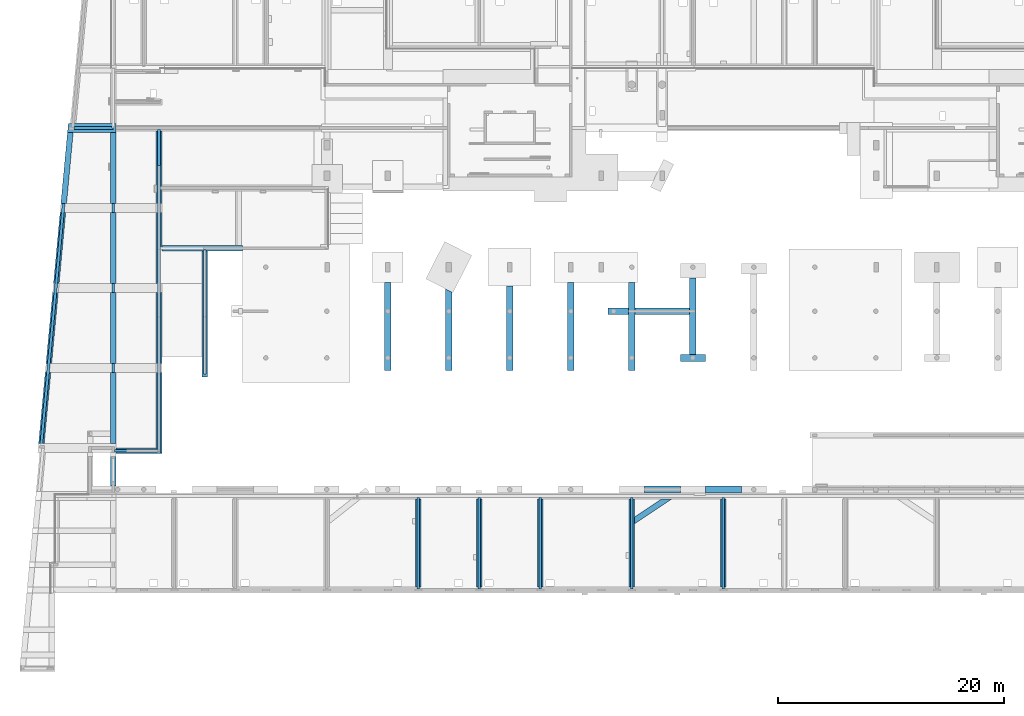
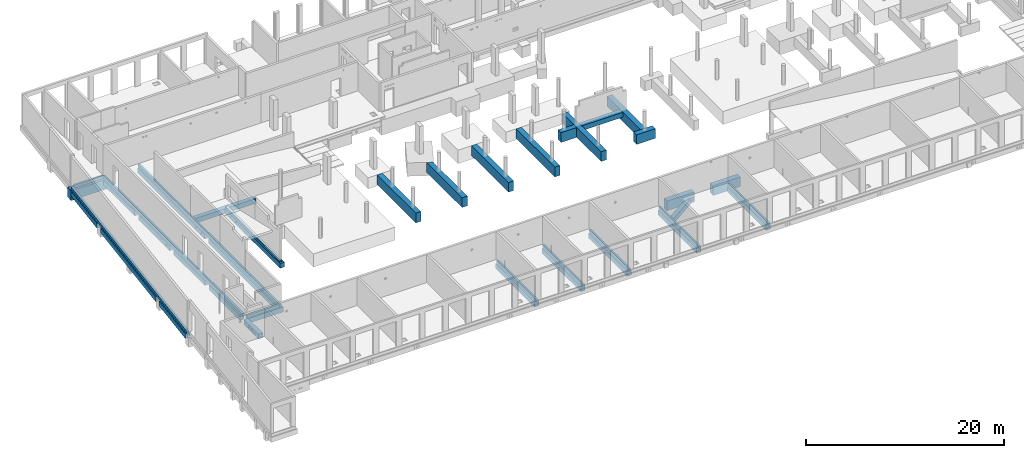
# One storey, part 2 of 60: 41 footings.
"""IFC2X3 building model written with IfcOpenShell, lengths in millimetres."""

from ifc_helpers import new_model, entity, si_unit, converted_unit, derived_unit, direction, frame, frame_2d, origin, origin_2d_with_axis, place, context, subcontext, project, spatial, polyline, circle_curve, parameter, trimmed, segment, composite_curve, rectangle, outline, extrude, material, element, save


model = new_model("IFC2X3")

# Units and contexts
model_context = context("Model", 3, precision=0.01, world=origin(), true_north=direction((6.12303176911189e-17, 1.0)))
body_context = subcontext(model_context, "Body", "Model", "MODEL_VIEW")
ifc_project = project(units=[si_unit("LENGTHUNIT", "METRE", prefix="MILLI"), si_unit("AREAUNIT", "SQUARE_METRE"), si_unit("VOLUMEUNIT", "CUBIC_METRE"), converted_unit("PLANEANGLEUNIT", "DEGREE", entity("IfcRatioMeasure", 0.0174532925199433), si_unit("PLANEANGLEUNIT", "RADIAN"), dimensions=[0, 0, 0, 0, 0, 0, 0]), si_unit("MASSUNIT", "GRAM", prefix="KILO"), derived_unit("MASSDENSITYUNIT", [(si_unit("MASSUNIT", "GRAM", prefix="KILO"), 1), (si_unit("LENGTHUNIT", "METRE"), -3)]), si_unit("TIMEUNIT", "SECOND"), si_unit("FREQUENCYUNIT", "HERTZ"), si_unit("THERMODYNAMICTEMPERATUREUNIT", "DEGREE_CELSIUS"), derived_unit("THERMALTRANSMITTANCEUNIT", [(si_unit("MASSUNIT", "GRAM", prefix="KILO"), 1), (si_unit("THERMODYNAMICTEMPERATUREUNIT", "KELVIN"), -1), (si_unit("TIMEUNIT", "SECOND"), -3)]), derived_unit("VOLUMETRICFLOWRATEUNIT", [(si_unit("LENGTHUNIT", "METRE"), 3), (si_unit("TIMEUNIT", "SECOND"), -1)]), si_unit("ELECTRICCURRENTUNIT", "AMPERE"), si_unit("ELECTRICVOLTAGEUNIT", "VOLT"), si_unit("POWERUNIT", "WATT"), si_unit("FORCEUNIT", "NEWTON", prefix="KILO"), si_unit("ILLUMINANCEUNIT", "LUX"), si_unit("LUMINOUSFLUXUNIT", "LUMEN"), si_unit("LUMINOUSINTENSITYUNIT", "CANDELA"), derived_unit("USERDEFINED", [(si_unit("MASSUNIT", "GRAM", prefix="KILO"), -1), (si_unit("LENGTHUNIT", "METRE"), -2), (si_unit("TIMEUNIT", "SECOND"), 3), (si_unit("LUMINOUSFLUXUNIT", "LUMEN"), 1)]), derived_unit("LINEARVELOCITYUNIT", [(si_unit("LENGTHUNIT", "METRE"), 1), (si_unit("TIMEUNIT", "SECOND"), -1)]), si_unit("PRESSUREUNIT", "PASCAL"), derived_unit("USERDEFINED", [(si_unit("LENGTHUNIT", "METRE"), -2), (si_unit("MASSUNIT", "GRAM", prefix="KILO"), 1), (si_unit("TIMEUNIT", "SECOND"), -2)])], contexts=[model_context])

# Site, building, storey
site_placement = place(None, origin())
site = spatial("IfcSite", under=ifc_project, at=site_placement, Name="Default", CompositionType="ELEMENT")
building_placement = place(site_placement, origin())
building = spatial("IfcBuilding", under=site, at=building_placement, Name="niet gebruiken", CompositionType="ELEMENT")
storey_placement = place(building_placement, origin())
storey = spatial("IfcBuildingStorey", under=building, at=storey_placement, Name="00 begane grond", CompositionType="ELEMENT", Elevation=0.0)

# Footings
ifc_material = material(Name="NLRS_f2_beton ihwg")
footing_1_placement = place(storey_placement, origin())
element("IfcFooting", 1, at=footing_1_placement, inside=storey, material=ifc_material, Name="NLRS_16.12_SF_WPB_funderingsbalk ihwg recht_gen:500x600", ObjectType="NLRS_16.12_SF_WPB_funderingsbalk ihwg recht_gen:500x600", PredefinedType="FOOTING_BEAM", context=body_context, shape_type="SweptSolid", body=[
    extrude(rectangle(XDim=7821.00000000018, YDim=499.999999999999, at=frame_2d((-638.079939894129, -83.3333333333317), x_axis=(1.0, 0.0))), frame((35016.6666666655, 5098.57993989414, -1092.0), z_axis=(0.0, 0.0, 1.0), x_axis=(0.0, 1.0, 0.0)), (0.0, 0.0, 1.0), 599.999999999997),
])
footing_2_placement = place(storey_placement, origin())
element("IfcFooting", 2, at=footing_2_placement, inside=storey, material=ifc_material, Name="NLRS_16.12_SF_WPB_funderingsbalk ihwg recht_gen:500x600", ObjectType="NLRS_16.12_SF_WPB_funderingsbalk ihwg recht_gen:500x600", PredefinedType="FOOTING_BEAM", context=body_context, shape_type="SweptSolid", body=[
    extrude(rectangle(XDim=7821.00000000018, YDim=499.999999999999, at=frame_2d((417.706450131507, -83.3333333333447), x_axis=(1.0, 0.0))), frame((40416.6666666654, 4042.79354986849, -1092.0), z_axis=(0.0, 0.0, 1.0), x_axis=(0.0, 1.0, 0.0)), (0.0, 0.0, 1.0), 599.999999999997),
])
footing_3_placement = place(storey_placement, origin())
element("IfcFooting", 3, at=footing_3_placement, inside=storey, material=ifc_material, Name="NLRS_16.12_SF_WPB_funderingsbalk ihwg recht_gen:500x600", ObjectType="NLRS_16.12_SF_WPB_funderingsbalk ihwg recht_gen:500x600", PredefinedType="FOOTING_BEAM", context=body_context, shape_type="SweptSolid", body=[
    extrude(rectangle(XDim=7821.00000000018, YDim=499.999999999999, at=frame_2d((4.54747350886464e-13, 4.33431068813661e-12), x_axis=(1.0, 0.0))), frame((45900.0, 4460.49999999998, -1092.0), z_axis=(0.0, 0.0, 1.0), x_axis=(0.0, 1.0, 0.0)), (0.0, 0.0, 1.0), 599.999999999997),
])
footing_4_placement = place(storey_placement, origin())
element("IfcFooting", 4, at=footing_4_placement, inside=storey, material=ifc_material, Name="NLRS_16.12_SF_WPB_funderingsbalk ihwg recht_gen:500x600", ObjectType="NLRS_16.12_SF_WPB_funderingsbalk ihwg recht_gen:500x600", PredefinedType="FOOTING_BEAM", context=body_context, shape_type="SweptSolid", body=[
    extrude(rectangle(XDim=7821.00000000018, YDim=499.999999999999, at=frame_2d((-224.002804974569, -4.33431068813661e-12), x_axis=(1.0, 0.0))), frame((54000.0, 4684.50280497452, -1092.0), z_axis=(0.0, 0.0, 1.0), x_axis=(0.0, 1.0, 0.0)), (0.0, 0.0, 1.0), 599.999999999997),
])
footing_5_placement = place(storey_placement, origin())
element("IfcFooting", 5, at=footing_5_placement, inside=storey, material=ifc_material, Name="NLRS_16.12_SF_WPB_funderingsbalk ihwg recht_gen:500x600", ObjectType="NLRS_16.12_SF_WPB_funderingsbalk ihwg recht_gen:500x600", PredefinedType="FOOTING_BEAM", context=body_context, shape_type="SweptSolid", body=[
    extrude(rectangle(XDim=7821.00000000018, YDim=499.999999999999, at=frame_2d((0.0, 4.33431068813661e-12), x_axis=(1.0, 0.0))), frame((62100.0, 4460.49999999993, -1092.0), z_axis=(0.0, 0.0, 1.0), x_axis=(0.0, 1.0, 0.0)), (0.0, 0.0, 1.0), 599.999999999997),
])
footing_6_placement = place(storey_placement, origin())
element("IfcFooting", 6, at=footing_6_placement, inside=storey, material=ifc_material, Name="NLRS_16.12_SF_WPB_funderingsbalk ihwg recht_gen:500x600", ObjectType="NLRS_16.12_SF_WPB_funderingsbalk ihwg recht_gen:500x600", PredefinedType="FOOTING_BEAM", context=body_context, shape_type="SweptSolid", body=[
    extrude(outline(polyline([(-6233.99698908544, -300.0), (-1419.50602182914, -300.0), (-819.506021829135, -300.0), (197.253010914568, -300.0), (997.253010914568, -300.0), (7278.50301091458, -300.0), (7278.50301091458, 300.0), (997.253010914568, 300.0), (197.253010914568, 300.0), (-819.506021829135, 300.0), (-1419.50602182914, 300.0), (-6233.99698908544, 300.0), (-6233.99698908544, -300.0)]), holes=[composite_curve([segment(trimmed(circle_curve(frame_2d((6642.69717758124, -32.0), x_axis=(-1.0, 0.0)), 100.0), [parameter(180.0)], [parameter(360.0)], True, "PARAMETER"), False, "CONTINUOUS"), segment(trimmed(circle_curve(frame_2d((6642.69717758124, -32.0), x_axis=(-1.0, 0.0)), 100.0), [parameter(4.07110999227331e-13)], [parameter(180.0)], True, "PARAMETER"), False, "CONTINUOUS")], self_intersect=False), composite_curve([segment(trimmed(circle_curve(frame_2d((5541.20301091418, -72.0), x_axis=(-1.0, 0.0)), 55.0), [parameter(180.0)], [parameter(360.0)], True, "PARAMETER"), False, "CONTINUOUS"), segment(trimmed(circle_curve(frame_2d((5541.20301091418, -72.0), x_axis=(-1.0, 0.0)), 55.0), [parameter(4.07110999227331e-13)], [parameter(180.0)], True, "PARAMETER"), False, "CONTINUOUS")], self_intersect=False)]), frame((11900.0, 34702.0030109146, -702.0), z_axis=(1.0, 0.0, 0.0), x_axis=(0.0, -1.0, 0.0)), (0.0, 0.0, 1.0), 500.000000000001),
    extrude(outline(polyline([(-7403.74999999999, -250.0), (-242.500000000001, -250.0), (557.499999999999, -250.0), (6838.74999999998, -250.0), (6838.74999999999, 250.0), (557.500000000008, 250.0), (-242.499999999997, 250.0), (-6903.74999999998, 250.0), (-7403.74999999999, -250.0)])), frame((12150.0, 19784.75, -1002.0), z_axis=(0.0, 0.0, 1.0), x_axis=(0.0, 1.0, 0.0)), (0.0, 0.0, 1.0), 599.999999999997),
])
footing_7_placement = place(storey_placement, origin())
element("IfcFooting", 7, at=footing_7_placement, inside=storey, material=ifc_material, Name="NLRS_16.12_SF_WPB_funderingsbalk ihwg recht_gen:500x600", ObjectType="NLRS_16.12_SF_WPB_funderingsbalk ihwg recht_gen:500x600", PredefinedType="FOOTING_BEAM", context=body_context, shape_type="SweptSolid", body=[
    extrude(outline(polyline([(-5562.63970366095, -300.0), (5562.63970366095, -300.0), (5562.63970366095, 300.0), (-5562.63970366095, 300.0), (-5562.63970366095, -300.0)]), holes=[composite_curve([segment(trimmed(circle_curve(frame_2d((3320.94553699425, 12.0), x_axis=(1.0, 0.0)), 100.0), [parameter(180.0)], [parameter(360.0)], True, "PARAMETER"), False, "CONTINUOUS"), segment(trimmed(circle_curve(frame_2d((3320.94553699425, 12.0), x_axis=(1.0, 0.0)), 100.0), [parameter(4.07110999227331e-13)], [parameter(180.0)], True, "PARAMETER"), False, "CONTINUOUS")], self_intersect=False), composite_curve([segment(trimmed(circle_curve(frame_2d((4422.43970366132, 52.0), x_axis=(1.0, 0.0)), 55.0), [parameter(180.0)], [parameter(360.0)], True, "PARAMETER"), False, "CONTINUOUS"), segment(trimmed(circle_curve(frame_2d((4422.43970366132, 52.0), x_axis=(1.0, 0.0)), 55.0), [parameter(4.07110999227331e-13)], [parameter(180.0)], True, "PARAMETER"), False, "CONTINUOUS")], self_intersect=False)]), frame((15950.0, 24738.3602963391, -702.0), z_axis=(1.0, 0.0, 0.0), x_axis=(0.0, 1.0, 0.0)), (0.0, 0.0, 1.0), 500.000000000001),
])
footing_8_placement = place(storey_placement, origin())
element("IfcFooting", 8, at=footing_8_placement, inside=storey, material=ifc_material, Name="NLRS_16.12_SF_WPB_funderingsbalk ihwg recht_gen:800x1200", ObjectType="NLRS_16.12_SF_WPB_funderingsbalk ihwg recht_gen:800x1200", PredefinedType="FOOTING_BEAM", context=body_context, shape_type="SweptSolid", body=[
    extrude(outline(polyline([(-2132.37388629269, -400.0), (2095.15972118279, -400.0), (2169.58805140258, 400.0), (-2132.37388629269, 400.0), (-2132.37388629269, -400.0)])), frame((6217.62611370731, 41186.0, -1602.0), z_axis=(0.0, 0.0, 1.0), x_axis=(-1.0, 0.0, 0.0)), (0.0, 0.0, 1.0), 1200.0),
])
footing_9_placement = place(storey_placement, origin())
element("IfcFooting", 9, at=footing_9_placement, inside=storey, material=ifc_material, Name="NLRS_16.12_SF_WPB_funderingsbalk ihwg recht_gen:500x600", ObjectType="NLRS_16.12_SF_WPB_funderingsbalk ihwg recht_gen:500x600", PredefinedType="FOOTING_BEAM", context=body_context, shape_type="SweptSolid", body=[
    extrude(outline(polyline([(-1256.0, -360.0), (1709.0, -360.0), (1709.0, 240.0), (-906.0, 240.0), (-1256.0, 240.0), (-1256.0, -360.0)]), holes=[composite_curve([segment(trimmed(circle_curve(frame_2d((1068.72536687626, 38.0), x_axis=(-1.0, 0.0)), 62.5), [parameter(180.0)], [parameter(360.0)], True, "PARAMETER"), False, "CONTINUOUS"), segment(trimmed(circle_curve(frame_2d((1068.72536687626, 38.0), x_axis=(-1.0, 0.0)), 62.5), [parameter(3.56222124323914e-13)], [parameter(180.0)], True, "PARAMETER"), False, "CONTINUOUS")], self_intersect=False), composite_curve([segment(trimmed(circle_curve(frame_2d((769.45881125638, 38.0), x_axis=(-1.0, 0.0)), 62.5), [parameter(180.0)], [parameter(360.0)], True, "PARAMETER"), False, "CONTINUOUS"), segment(trimmed(circle_curve(frame_2d((769.45881125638, 38.0), x_axis=(-1.0, 0.0)), 62.5), [parameter(3.56222124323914e-13)], [parameter(180.0)], True, "PARAMETER"), False, "CONTINUOUS")], self_intersect=False), composite_curve([segment(trimmed(circle_curve(frame_2d((368.741911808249, -52.0), x_axis=(-1.0, 0.0)), 157.5), [parameter(180.0)], [parameter(360.0)], True, "PARAMETER"), False, "CONTINUOUS"), segment(trimmed(circle_curve(frame_2d((368.741911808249, -52.0), x_axis=(-1.0, 0.0)), 157.5), [parameter(4.07110999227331e-13)], [parameter(180.0)], True, "PARAMETER"), False, "CONTINUOUS")], self_intersect=False), composite_curve([segment(trimmed(circle_curve(frame_2d((-231.224776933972, -52.0), x_axis=(-1.0, 0.0)), 157.5), [parameter(180.0)], [parameter(360.0)], True, "PARAMETER"), False, "CONTINUOUS"), segment(trimmed(circle_curve(frame_2d((-231.224776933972, -52.0), x_axis=(-1.0, 0.0)), 157.5), [parameter(4.07110999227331e-13)], [parameter(180.0)], True, "PARAMETER"), False, "CONTINUOUS")], self_intersect=False), composite_curve([segment(trimmed(circle_curve(frame_2d((-531.224776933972, -92.0), x_axis=(-1.0, 0.0)), 25.0), [parameter(180.0)], [parameter(360.0)], True, "PARAMETER"), False, "CONTINUOUS"), segment(trimmed(circle_curve(frame_2d((-531.224776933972, -92.0), x_axis=(-1.0, 0.0)), 25.0), [parameter(3.05333249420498e-13)], [parameter(180.0)], True, "PARAMETER"), False, "CONTINUOUS")], self_intersect=False)]), frame((7850.0, 11205.0, -762.0), z_axis=(1.0, 0.0, 0.0), x_axis=(0.0, -1.0, 0.0)), (0.0, 0.0, 1.0), 500.0),
])
footing_10_placement = place(storey_placement, origin())
element("IfcFooting", 10, at=footing_10_placement, inside=storey, material=ifc_material, Name="NLRS_16.12_SF_WPB_opstort ihwg recht_gen:250x332", ObjectType="NLRS_16.12_SF_WPB_opstort ihwg recht_gen:250x332", PredefinedType="FOOTING_BEAM", context=body_context, shape_type="SweptSolid", body=[
    extrude(rectangle(XDim=8083.29999999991, YDim=249.999999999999, at=frame_2d((0.0, -2.16715534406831e-12), x_axis=(1.0, 0.0))), frame((35100.0, 4441.65000000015, -492.0), z_axis=(0.0, 0.0, 1.0), x_axis=(0.0, -1.0, 0.0)), (0.0, 0.0, 1.0), 331.999999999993),
])
footing_11_placement = place(storey_placement, origin())
element("IfcFooting", 11, at=footing_11_placement, inside=storey, material=ifc_material, Name="NLRS_16.12_SF_WPB_opstort ihwg recht_gen:250x332", ObjectType="NLRS_16.12_SF_WPB_opstort ihwg recht_gen:250x332", PredefinedType="FOOTING_BEAM", context=body_context, shape_type="SweptSolid", body=[
    extrude(rectangle(XDim=8083.29999999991, YDim=249.999999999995, at=origin_2d_with_axis()), frame((40500.0, 4441.65000000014, -492.0), z_axis=(0.0, 0.0, 1.0), x_axis=(0.0, -1.0, 0.0)), (0.0, 0.0, 1.0), 331.999999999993),
])
footing_12_placement = place(storey_placement, origin())
element("IfcFooting", 12, at=footing_12_placement, inside=storey, material=ifc_material, Name="NLRS_16.12_SF_WPB_opstort ihwg recht_gen:250x332", ObjectType="NLRS_16.12_SF_WPB_opstort ihwg recht_gen:250x332", PredefinedType="FOOTING_BEAM", context=body_context, shape_type="SweptSolid", body=[
    extrude(rectangle(XDim=8083.29999999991, YDim=249.999999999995, at=origin_2d_with_axis()), frame((45900.0, 4441.65000000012, -492.0), z_axis=(0.0, 0.0, 1.0), x_axis=(0.0, -1.0, 0.0)), (0.0, 0.0, 1.0), 331.999999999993),
])
footing_13_placement = place(storey_placement, origin())
element("IfcFooting", 13, at=footing_13_placement, inside=storey, material=ifc_material, Name="NLRS_16.12_SF_WPB_opstort ihwg recht_gen:250x332", ObjectType="NLRS_16.12_SF_WPB_opstort ihwg recht_gen:250x332", PredefinedType="FOOTING_BEAM", context=body_context, shape_type="SweptSolid", body=[
    extrude(rectangle(XDim=8083.29999999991, YDim=249.999999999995, at=origin_2d_with_axis()), frame((54000.0, 4441.65000000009, -492.0), z_axis=(0.0, 0.0, 1.0), x_axis=(0.0, -1.0, 0.0)), (0.0, 0.0, 1.0), 331.999999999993),
])
footing_14_placement = place(storey_placement, origin())
element("IfcFooting", 14, at=footing_14_placement, inside=storey, material=ifc_material, Name="NLRS_16.12_SF_WPB_opstort ihwg recht_gen:250x332", ObjectType="NLRS_16.12_SF_WPB_opstort ihwg recht_gen:250x332", PredefinedType="FOOTING_BEAM", context=body_context, shape_type="SweptSolid", body=[
    extrude(rectangle(XDim=8083.29999999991, YDim=249.999999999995, at=frame_2d((0.0, 8.66151594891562e-12), x_axis=(1.0, 0.0))), frame((62100.0, 4441.65000000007, -492.0), z_axis=(0.0, 0.0, 1.0), x_axis=(0.0, -1.0, 0.0)), (0.0, 0.0, 1.0), 331.999999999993),
])
footing_15_placement = place(storey_placement, origin())
element("IfcFooting", 15, at=footing_15_placement, inside=storey, material=ifc_material, Name="NLRS_16.12_SF_WPB_opstort ihwg recht_gen:250x332", ObjectType="NLRS_16.12_SF_WPB_opstort ihwg recht_gen:250x332", PredefinedType="FOOTING_BEAM", context=body_context, shape_type="SweptSolid", body=[
    extrude(rectangle(XDim=25350.0000000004, YDim=249.999999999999, at=frame_2d((-2485.00000000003, 25.0000000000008), x_axis=(1.0, 0.0))), frame((12125.0, 22696.0, -402.0), z_axis=(0.0, 0.0, 1.0), x_axis=(0.0, -1.0, 0.0)), (0.0, 0.0, 1.0), 331.999999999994),
])
footing_16_placement = place(storey_placement, origin())
element("IfcFooting", 16, at=footing_16_placement, inside=storey, material=ifc_material, Name="NLRS_16.12_SF_WPB_opstort ihwg recht_gen:250x332", ObjectType="NLRS_16.12_SF_WPB_opstort ihwg recht_gen:250x332", PredefinedType="FOOTING_BEAM", context=body_context, shape_type="SweptSolid", body=[
    extrude(outline(polyline([(-1701.96382560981, -121.95891001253), (1648.0361743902, -121.95891001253), (1773.03617439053, -121.95891001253), (1773.03617439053, 3.04108998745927), (1648.03617439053, 3.04108998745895), (1648.03617439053, 128.041089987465), (-1682.32556951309, 128.041089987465), (-1701.96382560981, 128.041089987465), (-1701.96382560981, 59.5170979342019), (-1701.96382560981, -83.845817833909), (-1701.96382560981, -121.95891001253)])), frame((6326.96382560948, 41182.9589100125, -402.0)), (0.0, 0.0, 1.0), 331.999999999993),
])
footing_17_placement = place(storey_placement, origin())
element("IfcFooting", 17, at=footing_17_placement, inside=storey, material=ifc_material, Name="NLRS_16.12_SF_WPB_funderingsbalk ihwg recht_gen:500x600", ObjectType="NLRS_16.12_SF_WPB_funderingsbalk ihwg recht_gen:500x600", PredefinedType="FOOTING_BEAM", context=body_context, shape_type="SweptSolid", body=[
    extrude(outline(polyline([(-3130.92883984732, -250.0), (3177.44654623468, -250.0), (3130.92883984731, 250.0), (-3177.44654623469, 250.0), (-3130.92883984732, -250.0)])), frame((4006.92833641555, 37645.375, -1002.0), z_axis=(0.0, 0.0, 1.0), x_axis=(-0.0926353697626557, -0.995700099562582, 0.0)), (0.0, 0.0, 1.0), 599.999999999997),
])
footing_18_placement = place(storey_placement, origin())
element("IfcFooting", 18, at=footing_18_placement, inside=storey, material=ifc_material, Name="NLRS_16.12_SF_WPB_funderingsbalk ihwg recht_gen:600x1200", ObjectType="NLRS_16.12_SF_WPB_funderingsbalk ihwg recht_gen:600x1200", PredefinedType="FOOTING_BEAM", context=body_context, shape_type="SweptSolid", body=[
    extrude(rectangle(XDim=7784.99999999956, YDim=600.000000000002, at=frame_2d((-2.04636307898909e-12, -2.1600499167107e-12), x_axis=(1.0, 0.0))), frame((32400.0, 23638.5000000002, -1400.0), z_axis=(0.0, 0.0, 1.0), x_axis=(0.0, 1.0, 0.0)), (0.0, 0.0, 1.0), 1200.0),
])
footing_19_placement = place(storey_placement, origin())
element("IfcFooting", 19, at=footing_19_placement, inside=storey, material=ifc_material, Name="NLRS_16.12_SF_WPB_funderingsbalk ihwg recht_gen:600x1200", ObjectType="NLRS_16.12_SF_WPB_funderingsbalk ihwg recht_gen:600x1200", PredefinedType="FOOTING_BEAM", context=body_context, shape_type="SweptSolid", body=[
    extrude(rectangle(XDim=1809.99999999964, YDim=600.000000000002, at=frame_2d((0.0, -2.1600499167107e-12), x_axis=(1.0, 0.0))), frame((52795.0, 24976.0, -1400.0)), (0.0, 0.0, 1.0), 1200.0),
])
footing_20_placement = place(storey_placement, origin())
element("IfcFooting", 20, at=footing_20_placement, inside=storey, material=ifc_material, Name="NLRS_16.12_SF_WPB_funderingsbalk ihwg recht_gen:600x1200", ObjectType="NLRS_16.12_SF_WPB_funderingsbalk ihwg recht_gen:600x1200", PredefinedType="FOOTING_BEAM", context=body_context, shape_type="SweptSolid", body=[
    extrude(rectangle(XDim=6775.00000000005, YDim=599.999999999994, at=origin_2d_with_axis()), frame((59400.0, 24533.4999999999, -1400.0), z_axis=(0.0, 0.0, 1.0), x_axis=(0.0, 1.0, 0.0)), (0.0, 0.0, 1.0), 1200.0),
])
footing_21_placement = place(storey_placement, origin())
element("IfcFooting", 21, at=footing_21_placement, inside=storey, material=ifc_material, Name="NLRS_16.12_SF_WPB_funderingsbalk ihwg recht_gen:600x1200", ObjectType="NLRS_16.12_SF_WPB_funderingsbalk ihwg recht_gen:600x1200", PredefinedType="FOOTING_BEAM", context=body_context, shape_type="SweptSolid", body=[
    extrude(outline(polyline([(-3529.3482301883, -300.0), (3376.49059533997, -300.0), (3682.20586503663, 300.0), (-3529.3482301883, 300.0), (-3529.3482301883, -300.0)])), frame((37800.0, 23275.3482301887, -1400.0), z_axis=(0.0, 0.0, 1.0), x_axis=(0.0, 1.0, 0.0)), (0.0, 0.0, 1.0), 1200.0),
])
footing_22_placement = place(storey_placement, origin())
element("IfcFooting", 22, at=footing_22_placement, inside=storey, material=ifc_material, Name="NLRS_16.12_SF_WPB_funderingsbalk ihwg recht_gen:600x1200", ObjectType="NLRS_16.12_SF_WPB_funderingsbalk ihwg recht_gen:600x1200", PredefinedType="FOOTING_BEAM", context=body_context, shape_type="SweptSolid", body=[
    extrude(rectangle(XDim=7459.99999999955, YDim=599.999999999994, at=frame_2d((2.27373675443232e-12, 4.34852154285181e-12), x_axis=(1.0, 0.0))), frame((43200.0, 23476.0, -1400.0), z_axis=(0.0, 0.0, 1.0), x_axis=(0.0, 1.0, 0.0)), (0.0, 0.0, 1.0), 1200.0),
])
footing_23_placement = place(storey_placement, origin())
element("IfcFooting", 23, at=footing_23_placement, inside=storey, material=ifc_material, Name="NLRS_16.12_SF_WPB_funderingsbalk ihwg recht_gen:600x1200", ObjectType="NLRS_16.12_SF_WPB_funderingsbalk ihwg recht_gen:600x1200", PredefinedType="FOOTING_BEAM", context=body_context, shape_type="SweptSolid", body=[
    extrude(rectangle(XDim=7784.99999999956, YDim=599.999999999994, at=frame_2d((0.0, -4.34852154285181e-12), x_axis=(1.0, 0.0))), frame((48600.0, 23638.5000000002, -1400.0), z_axis=(0.0, 0.0, 1.0), x_axis=(0.0, 1.0, 0.0)), (0.0, 0.0, 1.0), 1200.0),
])
footing_24_placement = place(storey_placement, origin())
element("IfcFooting", 24, at=footing_24_placement, inside=storey, material=ifc_material, Name="NLRS_16.12_SF_WPB_funderingsbalk ihwg recht_gen:600x1200", ObjectType="NLRS_16.12_SF_WPB_funderingsbalk ihwg recht_gen:600x1200", PredefinedType="FOOTING_BEAM", context=body_context, shape_type="SweptSolid", body=[
    extrude(rectangle(XDim=7784.99999999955, YDim=599.999999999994, at=frame_2d((-445.833333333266, -100.000000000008), x_axis=(1.0, 0.0))), frame((53900.0, 24084.3333333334, -1400.0), z_axis=(0.0, 0.0, 1.0), x_axis=(0.0, 1.0, 0.0)), (0.0, 0.0, 1.0), 1200.0),
])
footing_25_placement = place(storey_placement, origin())
element("IfcFooting", 25, at=footing_25_placement, inside=storey, material=ifc_material, Name="NLRS_16.12_SF_WPB_funderingsbalk ihwg recht_gen:600x1200", ObjectType="NLRS_16.12_SF_WPB_funderingsbalk ihwg recht_gen:600x1200", PredefinedType="FOOTING_BEAM", context=body_context, shape_type="SweptSolid", body=[
    extrude(rectangle(XDim=2199.99999999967, YDim=600.000000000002, at=frame_2d((1.30285116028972e-10, -99.9999999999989), x_axis=(1.0, 0.0))), frame((59400.0, 20946.0, -1400.0)), (0.0, 0.0, 1.0), 1200.0),
])
footing_26_placement = place(storey_placement, origin())
element("IfcFooting", 26, at=footing_26_placement, inside=storey, material=ifc_material, Name="NLRS_16.12_SF_WPB_funderingsbalk ihwg recht_gen:500x600", ObjectType="NLRS_16.12_SF_WPB_funderingsbalk ihwg recht_gen:500x600", PredefinedType="FOOTING_BEAM", context=body_context, shape_type="SweptSolid", body=[
    extrude(rectangle(XDim=7149.2488027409, YDim=499.999999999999, at=frame_2d((875.187799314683, 0.0), x_axis=(1.0, 0.0))), frame((16849.8122006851, 30551.0, -1002.0), z_axis=(0.0, 0.0, 1.0), x_axis=(-1.0, 0.0, 0.0)), (0.0, 0.0, 1.0), 599.999999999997),
])
footing_27_placement = place(storey_placement, origin())
element("IfcFooting", 27, at=footing_27_placement, inside=storey, material=ifc_material, Name="NLRS_16.12_SF_WPB_funderingsbalk ihwg recht_gen:500x600", ObjectType="NLRS_16.12_SF_WPB_funderingsbalk ihwg recht_gen:500x600", PredefinedType="FOOTING_BEAM", context=body_context, shape_type="SweptSolid", body=[
    extrude(outline(polyline([(-1520.0, -216.0), (2530.0, -216.0), (2030.0, 284.0), (-1520.0, 284.0), (-1520.0, -136.0), (-1520.0, -216.0)])), frame((9870.0, 12597.0, -1002.0)), (0.0, 0.0, 1.0), 599.999999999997),
])
footing_28_placement = place(storey_placement, origin())
element("IfcFooting", 28, at=footing_28_placement, inside=storey, material=ifc_material, Name="NLRS_16.12_SF_WPB_opstort ihwg recht_gen:250x332", ObjectType="NLRS_16.12_SF_WPB_opstort ihwg recht_gen:250x332", PredefinedType="FOOTING_BEAM", context=body_context, shape_type="SweptSolid", body=[
    extrude(rectangle(XDim=28075.0, YDim=250.000000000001, at=frame_2d((-2807.5, 6.86597445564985e-11), x_axis=(1.0, 0.0))), frame((8100.0, 29831.0, -402.0), z_axis=(0.0, 0.0, 1.0), x_axis=(0.0, 1.0, 0.0)), (0.0, 0.0, 1.0), 331.999999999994),
])
footing_29_placement = place(storey_placement, origin())
element("IfcFooting", 29, at=footing_29_placement, inside=storey, material=ifc_material, Name="NLRS_16.12_SF_WPB_funderingsbalk ihwg recht_gen:500x600", ObjectType="NLRS_16.12_SF_WPB_funderingsbalk ihwg recht_gen:500x600", PredefinedType="FOOTING_BEAM", context=body_context, shape_type="SweptSolid", body=[
    extrude(rectangle(XDim=6281.25000000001, YDim=500.0, at=frame_2d((-754.541666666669, 83.3333333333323), x_axis=(1.0, 0.0))), frame((8016.66666666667, 15647.0833333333, -1002.0), z_axis=(0.0, 0.0, 1.0), x_axis=(0.0, -1.0, 0.0)), (0.0, 0.0, 1.0), 599.999999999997),
])
footing_30_placement = place(storey_placement, origin())
element("IfcFooting", 30, at=footing_30_placement, inside=storey, material=ifc_material, Name="NLRS_16.12_SF_WPB_funderingsbalk ihwg recht_gen:500x600", ObjectType="NLRS_16.12_SF_WPB_funderingsbalk ihwg recht_gen:500x600", PredefinedType="FOOTING_BEAM", context=body_context, shape_type="SweptSolid", body=[
    extrude(rectangle(XDim=6281.24999999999, YDim=500.0, at=frame_2d((0.0, -5.40012479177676e-13), x_axis=(1.0, 0.0))), frame((8100.0, 23482.875, -1002.0), z_axis=(0.0, 0.0, 1.0), x_axis=(0.0, 1.0, 0.0)), (0.0, 0.0, 1.0), 599.999999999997),
])
footing_31_placement = place(storey_placement, origin())
element("IfcFooting", 31, at=footing_31_placement, inside=storey, material=ifc_material, Name="NLRS_16.12_SF_WPB_funderingsbalk ihwg recht_gen:500x600", ObjectType="NLRS_16.12_SF_WPB_funderingsbalk ihwg recht_gen:500x600", PredefinedType="FOOTING_BEAM", context=body_context, shape_type="SweptSolid", body=[
    extrude(outline(polyline([(-3140.62500000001, -300.0), (3140.625, -300.0), (3140.625, 300.0), (-3140.62500000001, 300.0), (-3140.62500000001, -300.0)]), holes=[composite_curve([segment(trimmed(circle_curve(frame_2d((2504.81916666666, -52.0), x_axis=(-1.0, 0.0)), 100.0), [parameter(180.0)], [parameter(360.0)], True, "PARAMETER"), False, "CONTINUOUS"), segment(trimmed(circle_curve(frame_2d((2504.81916666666, -52.0), x_axis=(-1.0, 0.0)), 100.0), [parameter(4.07110999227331e-13)], [parameter(180.0)], True, "PARAMETER"), False, "CONTINUOUS")], self_intersect=False), composite_curve([segment(trimmed(circle_curve(frame_2d((1403.3249999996, -92.0), x_axis=(-1.0, 0.0)), 55.0), [parameter(180.0)], [parameter(360.0)], True, "PARAMETER"), False, "CONTINUOUS"), segment(trimmed(circle_curve(frame_2d((1403.3249999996, -92.0), x_axis=(-1.0, 0.0)), 55.0), [parameter(4.07110999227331e-13)], [parameter(180.0)], True, "PARAMETER"), False, "CONTINUOUS")], self_intersect=False)]), frame((7850.0, 30564.125, -702.0), z_axis=(1.0, 0.0, 0.0), x_axis=(0.0, -1.0, 0.0)), (0.0, 0.0, 1.0), 500.0),
])
footing_32_placement = place(storey_placement, origin())
element("IfcFooting", 32, at=footing_32_placement, inside=storey, material=ifc_material, Name="NLRS_16.12_SF_WPB_funderingsbalk ihwg recht_gen:500x600", ObjectType="NLRS_16.12_SF_WPB_funderingsbalk ihwg recht_gen:500x600", PredefinedType="FOOTING_BEAM", context=body_context, shape_type="SweptSolid", body=[
    extrude(rectangle(XDim=6281.25, YDim=500.0, at=frame_2d((-36.6227590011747, -83.3333333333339), x_axis=(1.0, 0.0))), frame((8016.66666666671, 37681.9977590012, -1002.0), z_axis=(0.0, 0.0, 1.0), x_axis=(0.0, 1.0, 0.0)), (0.0, 0.0, 1.0), 599.999999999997),
])
footing_33_placement = place(storey_placement, origin())
element("IfcFooting", 33, at=footing_33_placement, inside=storey, material=ifc_material, Name="NLRS_16.12_SF_WPB_opstort ihwg recht_gen:250x332", ObjectType="NLRS_16.12_SF_WPB_opstort ihwg recht_gen:250x332", PredefinedType="FOOTING_BEAM", context=body_context, shape_type="SweptSolid", body=[
    extrude(rectangle(XDim=28029.9603166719, YDim=250.000000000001, at=origin_2d_with_axis()), frame((3017.80095675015, 27065.1637967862, -402.0), z_axis=(0.0, 0.0, 1.0), x_axis=(-0.0922993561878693, -0.995731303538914, 0.0)), (0.0, 0.0, 1.0), 331.999999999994),
])
footing_34_placement = place(storey_placement, origin())
element("IfcFooting", 34, at=footing_34_placement, inside=storey, material=ifc_material, Name="NLRS_16.12_SF_WPB_funderingsbalk ihwg recht_gen:500x600", ObjectType="NLRS_16.12_SF_WPB_funderingsbalk ihwg recht_gen:500x600", PredefinedType="FOOTING_BEAM", context=body_context, shape_type="SweptSolid", body=[
    extrude(outline(polyline([(-6686.84392065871, -250.0), (-378.468534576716, -250.0), (424.986240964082, -250.0), (6733.36162704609, -250.0), (6686.84392065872, 250.0), (378.468534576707, 250.0), (-424.986240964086, 250.0), (-6733.36162704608, 250.0), (-6686.84392065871, -250.0)])), frame((3018.71781134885, 27023.5, -1002.0), z_axis=(0.0, 0.0, 1.0), x_axis=(0.0926353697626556, 0.995700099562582, 0.0)), (0.0, 0.0, 1.0), 599.999999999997),
    extrude(outline(polyline([(-3130.92883984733, -250.0), (3177.44654623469, -250.0), (3130.92883984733, 250.0), (-3177.44654623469, 250.0), (-3130.92883984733, -250.0)])), frame((2030.50728628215, 16401.625, -1002.0), z_axis=(0.0, 0.0, 1.0), x_axis=(0.0926353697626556, 0.995700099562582, 0.0)), (0.0, 0.0, 1.0), 599.999999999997),
])
footing_35_placement = place(storey_placement, origin())
element("IfcFooting", 35, at=footing_35_placement, inside=storey, material=ifc_material, Name="NLRS_16.12_SF_WPB_funderingsbalk ihwg recht_gen:600x1200", ObjectType="NLRS_16.12_SF_WPB_funderingsbalk ihwg recht_gen:600x1200", PredefinedType="FOOTING_BEAM", context=body_context, shape_type="SweptSolid", body=[
    extrude(rectangle(XDim=3200.0, YDim=600.0, at=frame_2d((4.32009983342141e-12, -5.40012479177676e-13), x_axis=(1.0, 0.0))), frame((56700.0, 9196.0, -1400.0)), (0.0, 0.0, 1.0), 1200.0),
])
footing_36_placement = place(storey_placement, origin())
element("IfcFooting", 36, at=footing_36_placement, inside=storey, material=ifc_material, Name="NLRS_16.12_SF_WPB_opstort ihwg recht_gen:250x332", ObjectType="NLRS_16.12_SF_WPB_opstort ihwg recht_gen:250x332", PredefinedType="FOOTING_BEAM", context=body_context, shape_type="SweptSolid", body=[
    extrude(rectangle(XDim=3800.00000000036, YDim=249.999999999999, at=frame_2d((1.13686837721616e-12, 1.08002495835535e-12), x_axis=(1.0, 0.0))), frame((10125.0, 12631.0, -402.0)), (0.0, 0.0, 1.0), 331.999999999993),
])
footing_37_placement = place(storey_placement, origin())
element("IfcFooting", 37, at=footing_37_placement, inside=storey, material=ifc_material, Name="NLRS_16.12_SF_WPB_opstort ihwg recht_gen:250x332", ObjectType="NLRS_16.12_SF_WPB_opstort ihwg recht_gen:250x332", PredefinedType="FOOTING_BEAM", context=body_context, shape_type="SweptSolid", body=[
    extrude(rectangle(XDim=3204.99999999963, YDim=249.999999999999, at=frame_2d((-4.32009983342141e-12, 0.0), x_axis=(1.0, 0.0))), frame((12150.0, 39458.5000000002, -402.0), z_axis=(0.0, 0.0, 1.0), x_axis=(0.0, 1.0, 0.0)), (0.0, 0.0, 1.0), 331.999999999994),
])
footing_38_placement = place(storey_placement, origin())
element("IfcFooting", 38, at=footing_38_placement, inside=storey, material=ifc_material, Name="NLRS_16.12_SF_WPB_funderingsbalk ihwg recht_gen:600x600", ObjectType="NLRS_16.12_SF_WPB_funderingsbalk ihwg recht_gen:600x600", PredefinedType="FOOTING_BEAM", context=body_context, shape_type="SweptSolid", body=[
    extrude(rectangle(XDim=4800.00000000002, YDim=600.000000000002, at=origin_2d_with_axis()), frame((56700.0, 24976.0, -800.0)), (0.0, 0.0, 1.0), 599.999999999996),
])
footing_39_placement = place(storey_placement, origin())
element("IfcFooting", 39, at=footing_39_placement, inside=storey, material=ifc_material, Name="NLRS_16.12_SF_WPB_opstort ihwg recht_gen:252x250", ObjectType="NLRS_16.12_SF_WPB_opstort ihwg recht_gen:252x250", PredefinedType="FOOTING_BEAM", context=body_context, shape_type="SweptSolid", body=[
    extrude(rectangle(XDim=10980.0, YDim=249.999999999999, at=frame_2d((-9.09494701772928e-13, -1.08713038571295e-12), x_axis=(1.0, 0.0))), frame((16200.0, 24916.0, -402.0), z_axis=(0.0, 0.0, 1.0), x_axis=(0.0, -1.0, 0.0)), (0.0, 0.0, 1.0), 201.999999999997),
])
footing_40_placement = place(storey_placement, origin())
element("IfcFooting", 40, at=footing_40_placement, inside=storey, material=ifc_material, Name="NLRS_16.12_SF_WPB_funderingsbalk ihwg recht_gen:500x600", ObjectType="NLRS_16.12_SF_WPB_funderingsbalk ihwg recht_gen:500x600", PredefinedType="FOOTING_BEAM", context=body_context, shape_type="SweptSolid", body=[
    extrude(outline(polyline([(-251.476730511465, -353.261834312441), (-221.394011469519, -353.261834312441), (236.435370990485, 330.788300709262), (236.435370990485, 375.735367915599), (-251.476730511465, -353.261834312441)])), frame((57835.6606760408, 8883.49999999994, -1092.0), z_axis=(0.0, 0.0, 1.0), x_axis=(-0.556209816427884, 0.831041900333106, 0.0)), (0.0, 0.0, 1.0), 274.99999999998),
    extrude(outline(polyline([(-1337.76496703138, -250.0), (1543.97089212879, -250.0), (1878.61696485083, 250.0), (-2084.82288994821, 250.0), (-1337.76496703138, -250.0)])), frame((55672.1569583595, 7419.1615181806, -1092.0), z_axis=(0.0, 0.0, 1.0), x_axis=(-0.831041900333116, -0.556209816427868, 0.0)), (0.0, 0.0, 1.0), 599.999999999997),
])
footing_41_placement = place(storey_placement, origin())
element("IfcFooting", 41, at=footing_41_placement, inside=storey, material=ifc_material, Name="NLRS_16.12_SF_WPB_funderingsbalk ihwg recht_gen:600x1200", ObjectType="NLRS_16.12_SF_WPB_funderingsbalk ihwg recht_gen:600x1200", PredefinedType="FOOTING_BEAM", context=body_context, shape_type="SweptSolid", body=[
    extrude(rectangle(XDim=3200.0, YDim=600.0, at=frame_2d((4.32009983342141e-12, -5.40012479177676e-13), x_axis=(1.0, 0.0))), frame((62100.0, 9196.0, -1400.0)), (0.0, 0.0, 1.0), 1200.0),
])

save(model, "model.ifc")
